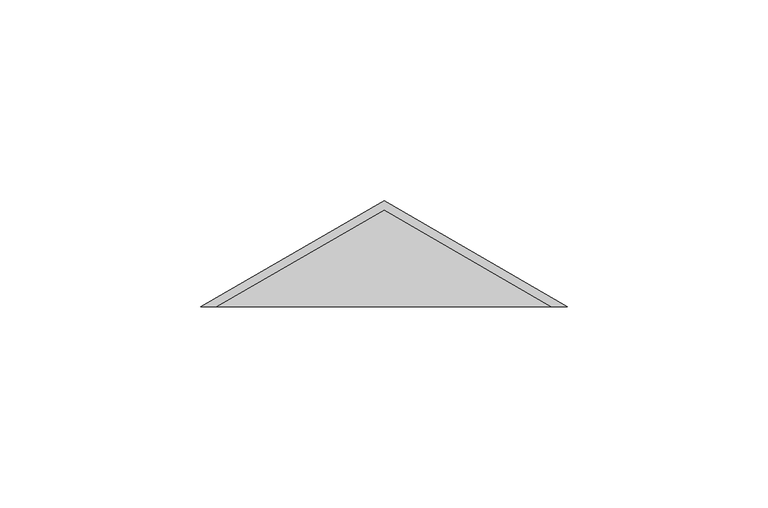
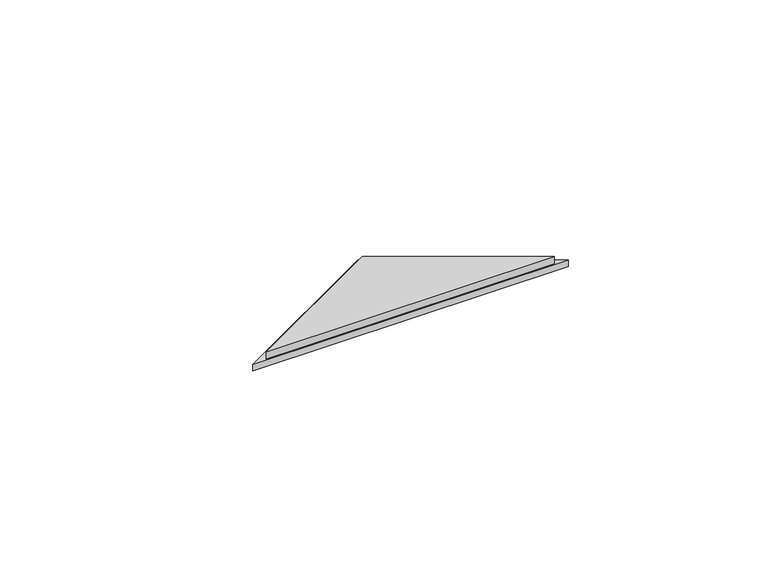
"""IFC4 building model written with IfcOpenShell, lengths in millimetres: proxy geometry, PBSHOP - CUBICA ARGENTO 4,8X8,3 : CUBICA ARGENTO - POSIÇÃO 03."""

from ifc_helpers import new_model, si_unit, origin, place, context, project, spatial, faceted_brep, source, transform, mapped, element, save


def generic_models_95f85f1d(model_context):
    return source(origin(), model_context, "Body", "Brep", [
        faceted_brep([(0.0, 26.3094011, 2.0), (-45.5692194, 0.0, 2.0), (45.5692194, -0.0094011, 2.0), (0.0, 26.3094011, 0.0), (45.5692194, 0.0, 0.0), (-45.5692194, -0.0094011, 0.0)], [[[0, 1, 2]], [[3, 4, 5]], [[1, 0, 3, 5]], [[0, 2, 4, 3]], [[2, 1, 5, 4]]]),
        faceted_brep([(0.0, 24.0, 4.5), (-41.5692194, 0.0, 4.5), (41.5529362, -0.0094011, 4.5), (0.0, 24.0, 2.0), (41.5692194, 0.0, 2.0), (-41.5529362, -0.0094011, 2.0)], [[[0, 1, 2]], [[3, 4, 5]], [[1, 0, 3, 5]], [[0, 2, 4, 3]], [[2, 1, 5, 4]]]),
    ])


if __name__ == "__main__":
    model = new_model("IFC4")
    model_context = context("Model", 3, world=origin())
    ifc_project = project(units=[si_unit("LENGTHUNIT", "METRE", prefix="MILLI")], contexts=[model_context])
    site = spatial("IfcSite", under=ifc_project)
    building = spatial("IfcBuilding", under=site)
    placement = place(None, origin())
    generic_models_shape = generic_models_95f85f1d(model_context)
    element("IfcBuildingElementProxy", 1, Name="PBSHOP - CUBICA ARGENTO 4,8X8,3 : CUBICA ARGENTO - POSIÇÃO 03", ObjectType="PBSHOP - CUBICA ARGENTO 4,8X8,3 : CUBICA ARGENTO - POSIÇÃO 03", at=placement, inside=building, context=model_context, shape_type="MappedRepresentation", body=[
        mapped(generic_models_shape, transform((0.0, 0.0, 0.0), x_axis=(1.0, 0.0, 0.0), y_axis=(0.0, 1.0, 0.0), z_axis=(0.0, 0.0, 1.0))),
    ])
    save(model, "model.ifc")
